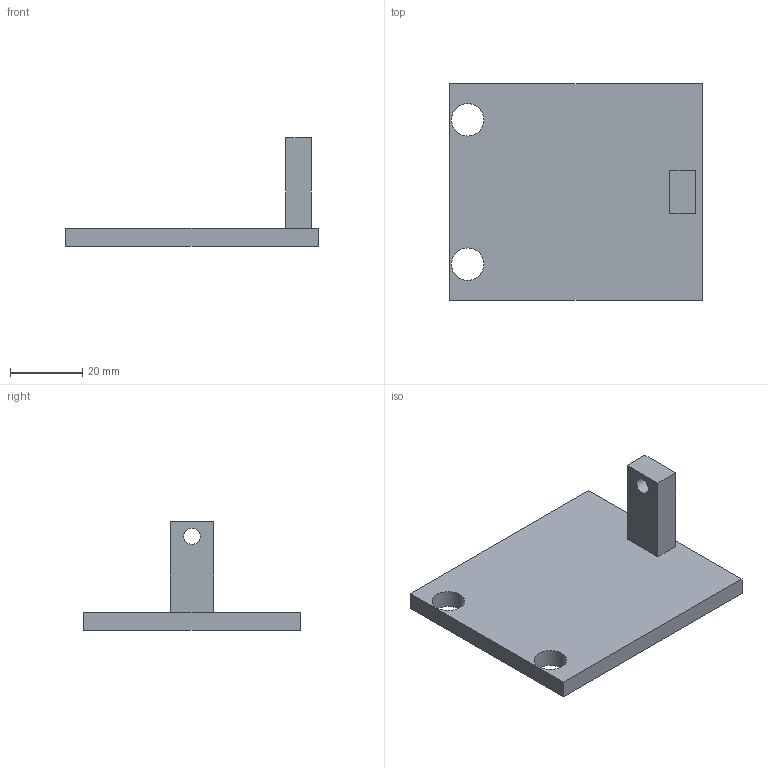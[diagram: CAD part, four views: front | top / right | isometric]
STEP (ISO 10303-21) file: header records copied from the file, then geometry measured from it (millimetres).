
FILE_DESCRIPTION(('FreeCAD Model'),'2;1');
FILE_NAME('Open CASCADE Shape Model','2026-10-30T14:44:42',('FreeCAD'),( 'FreeCAD'),'Open CASCADE STEP processor 7.8','FreeCAD','Unknown');
FILE_SCHEMA(('AUTOMOTIVE_DESIGN { 1 0 10303 214 1 1 1 1 }'));
Length unit declared in the file: millimetre
Products named in the file (1): Open CASCADE STEP translator 7.8 8
Bounding box: 70 x 60 x 30 mm (x, y, z)
Volume: 22352.5 mm3; surface area: 10745.4 mm2
Topology: 1 solids, 1 shells, 14 faces, 33 edges, 22 vertices
Faces by surface type: plane 11, cylinder 3
Full cylindrical faces by diameter (mm): 4.5 x1, 9 x2
Entity records: 425 total; most frequent: CARTESIAN_POINT 70, DIRECTION 69, ORIENTED_EDGE 66, EDGE_CURVE 33, LINE 27, VECTOR 27, VERTEX_POINT 22, AXIS2_PLACEMENT_3D 21
